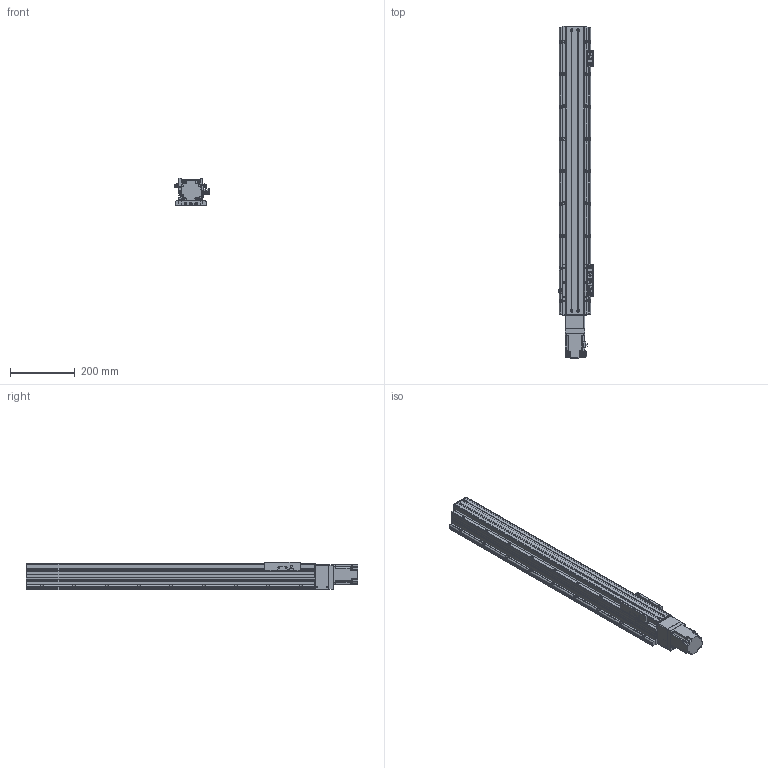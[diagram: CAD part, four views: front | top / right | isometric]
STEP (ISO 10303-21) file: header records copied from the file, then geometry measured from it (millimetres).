
FILE_DESCRIPTION(/* description */ ('MANUFACTURE'),/* implementation_level */ '2;1');
FILE_NAME(/* name */ '\\192.168.0.160\disk1\HAN SHIN Master\B-설계부문\C-표준\B-2024년\BC02-표준도면\+로봇 개선표준도면\표준 승인도 폴더 - 재작업\3D\HS Type\HS75\S-Type\HS75-S20-N1B-0700-R10.stp',/* time_stamp */ '2024-05-08T14:40:27+09:00',/* author */ ('User'),/* organization */ (''),/* preprocessor_version */ 'ST-DEVELOPER v18.1',/* originating_system */ 'Autodesk Inventor 2022',/* authorisation */ 'LIP');
FILE_SCHEMA (('AUTOMOTIVE_DESIGN { 1 0 10303 214 3 1 1 }'));
Products named in the file (28): HS75-S20-N1B-0500-R10 - 간소화; HS75 100W S BASE; UPCOVER; HS75 REAR BLOCK; SDWA-31C-10x14(00-00); HS75 FRONT BLOCK-AN; HS75 FRONT BLOCK; 7001ADF; BEARING COVER(∅15); SPACER(∅15); RN12; HS75 FRONT COVER; HS75 FRONT COVER_1; COUPLING COVER; HS75 SIDE COVER; HS75 SENSOR DOG-1; NIPPLE CAP(신규); hsr_ftht_A-M6F_grease_nipple_joint; SENSOR BRK(EE-SX674A); EE_SX674A; M3-5(렌치볼트); HG75 S MOTOR PLATE-B; HG75 S MOTOR PLATE-M; hg-kr23_; HG90STOPPER - 17L; LMKE1520 NUT; HS75 TABLE - 1BLOCK; HS75 SIDE COVER (100W, 1B)_MIR
Assembly tree (37 placements, depth 3):
  HS75-S20-N1B-0500-R10 - 간소화
    HS75 100W S BASE
    UPCOVER
    HS75 REAR BLOCK
    SDWA-31C-10x14(00-00)
    HS75 FRONT BLOCK-AN
      HS75 FRONT BLOCK
      7001ADF
      BEARING COVER(∅15)
      SPACER(∅15)
      RN12
    HS75 FRONT COVER
    HS75 FRONT COVER_1
    HG90STOPPER - 17L  x2
    COUPLING COVER
    SENSOR BRK(EE-SX674A)  x3
    EE_SX674A  x3
    hsr_ftht_A-M6F_grease_nipple_joint  x2
    NIPPLE CAP(신규)  x2
    HS75 SIDE COVER
    HS75 SENSOR DOG-1
    M3-5(렌치볼트)  x4
    HG75 S MOTOR PLATE-B
    HG75 S MOTOR PLATE-M
    hg-kr23_
    LMKE1520 NUT
    HS75 TABLE - 1BLOCK
    HS75 SIDE COVER (100W, 1B)_MIR
Bounding box: 105.96 x 1025.6 x 85 mm (x, y, z)
Volume: 2575486.2 mm3; surface area: 892432.7 mm2
Topology: 59 solids, 59 shells, 2261 faces, 6361 edges, 4149 vertices
Faces by surface type: plane 1118, cylinder 799, cone 224, torus 74, sphere 38, bspline 8
Full cylindrical faces by diameter (mm): 2.013 x2, 2.459 x20, 2.85 x4, 3 x12, 3.1 x1, 3.242 x58, 3.3 x2, 3.5 x6, 4 x18, 4.134 x48, 4.5 x51, 4.917 x19, 5 x28, 5.5 x16, 5.6 x10, 5.8 x4, 5.9 x10, 6 x6, 6.05 x4, 6.45 x6, 6.5 x4, 7.2 x2, 7.5 x4, 8 x7, 9.5 x10, 10 x1, 10.8 x1, 12 x3, 14 x2, 14.4 x3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
Entity records: 68484 total; most frequent: CARTESIAN_POINT 14571, DIRECTION 11264, ORIENTED_EDGE 10906, EDGE_CURVE 5453, AXIS2_PLACEMENT_3D 4169, VERTEX_POINT 3715, LINE 2926, VECTOR 2926
